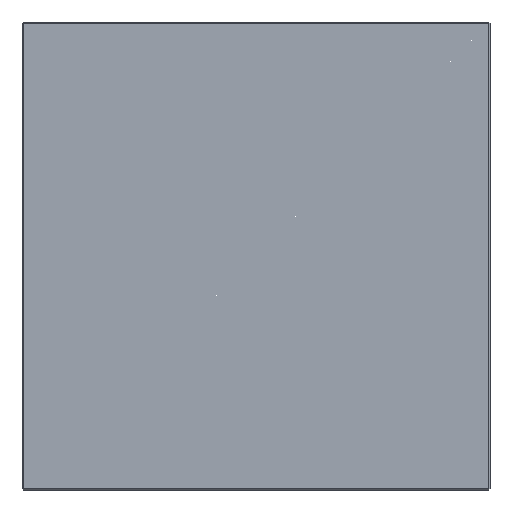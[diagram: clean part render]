
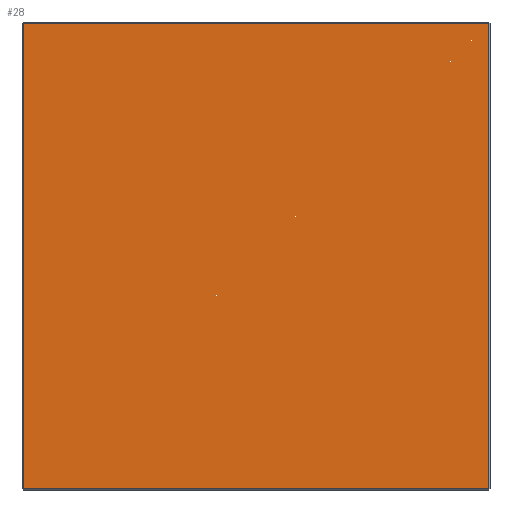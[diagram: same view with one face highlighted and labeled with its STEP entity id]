
A CAD part, front view. The second image highlights one B-rep face of the part: STEP entity #28.
In plain terms, the highlighted planar face has unit normal (0, -1, 0).
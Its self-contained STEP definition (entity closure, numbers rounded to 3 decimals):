
#1 = DIRECTION ( 'NONE',  ( 0., 0., -1. ) ) ;
#8 = VERTEX_POINT ( 'NONE', #51 ) ;
#11 = LINE ( 'NONE', #438, #312 ) ;
#28 = ADVANCED_FACE ( 'NONE', ( #160 ), #322, .F. ) ;
#38 = VERTEX_POINT ( 'NONE', #632 ) ;
#51 = CARTESIAN_POINT ( 'NONE',  ( -222., 0., 222. ) ) ;
#53 = VERTEX_POINT ( 'NONE', #231 ) ;
#60 = CARTESIAN_POINT ( 'NONE',  ( -222., 0., 0. ) ) ;
#78 = ORIENTED_EDGE ( 'NONE', *, *, #388, .T. ) ;
#146 = VECTOR ( 'NONE', #204, 1000. ) ;
#158 = DIRECTION ( 'NONE',  ( 1., 0., 0. ) ) ;
#160 = FACE_OUTER_BOUND ( 'NONE', #562, .T. ) ;
#173 = CARTESIAN_POINT ( 'NONE',  ( 0., 0., -222. ) ) ;
#183 = DIRECTION ( 'NONE',  ( -1., 0., 0. ) ) ;
#204 = DIRECTION ( 'NONE',  ( 0., 0., 1. ) ) ;
#207 = ORIENTED_EDGE ( 'NONE', *, *, #378, .T. ) ;
#229 = DIRECTION ( 'NONE',  ( 0., 1., 0. ) ) ;
#231 = CARTESIAN_POINT ( 'NONE',  ( 222., 0., -222. ) ) ;
#308 = EDGE_CURVE ( 'NONE', #8, #418, #442, .T. ) ;
#312 = VECTOR ( 'NONE', #183, 1000. ) ;
#322 = PLANE ( 'NONE',  #449 ) ;
#343 = LINE ( 'NONE', #173, #567 ) ;
#358 = DIRECTION ( 'NONE',  ( 0., 0., 1. ) ) ;
#378 = EDGE_CURVE ( 'NONE', #53, #38, #610, .T. ) ;
#388 = EDGE_CURVE ( 'NONE', #38, #8, #11, .T. ) ;
#418 = VERTEX_POINT ( 'NONE', #430 ) ;
#430 = CARTESIAN_POINT ( 'NONE',  ( -222., 0., -222. ) ) ;
#438 = CARTESIAN_POINT ( 'NONE',  ( 0., 0., 222. ) ) ;
#442 = LINE ( 'NONE', #60, #588 ) ;
#449 = AXIS2_PLACEMENT_3D ( 'NONE', #581, #229, #358 ) ;
#521 = ORIENTED_EDGE ( 'NONE', *, *, #620, .T. ) ;
#533 = ORIENTED_EDGE ( 'NONE', *, *, #308, .T. ) ;
#562 = EDGE_LOOP ( 'NONE', ( #207, #78, #533, #521 ) ) ;
#567 = VECTOR ( 'NONE', #158, 1000. ) ;
#581 = CARTESIAN_POINT ( 'NONE',  ( 0., 0., 0. ) ) ;
#588 = VECTOR ( 'NONE', #1, 1000. ) ;
#604 = CARTESIAN_POINT ( 'NONE',  ( 222., 0., 0. ) ) ;
#610 = LINE ( 'NONE', #604, #146 ) ;
#620 = EDGE_CURVE ( 'NONE', #418, #53, #343, .T. ) ;
#632 = CARTESIAN_POINT ( 'NONE',  ( 222., 0., 222. ) ) ;
